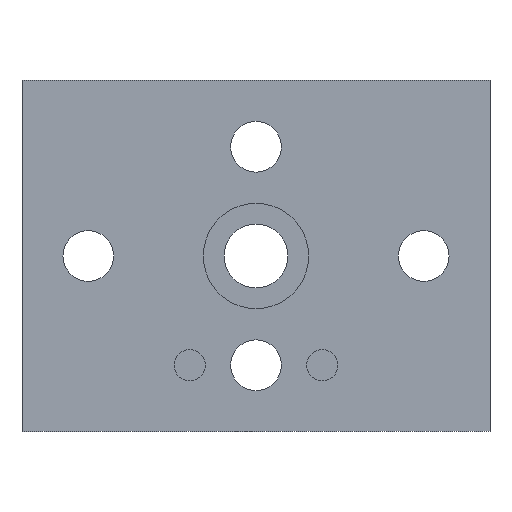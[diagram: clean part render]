
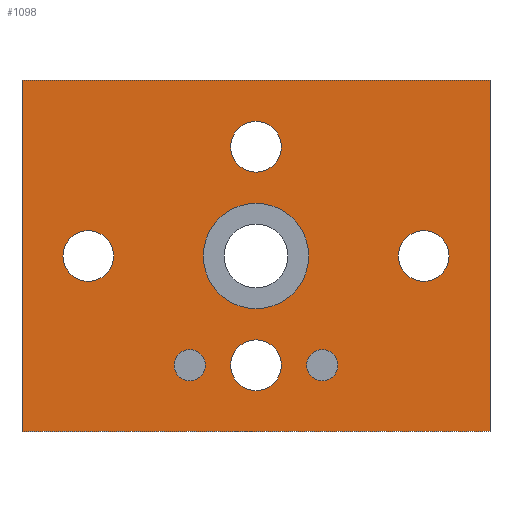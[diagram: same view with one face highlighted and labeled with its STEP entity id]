
A CAD part, front view. The second image highlights one B-rep face of the part: STEP entity #1098.
In plain terms, the highlighted planar face has unit normal (0, -1, 0).
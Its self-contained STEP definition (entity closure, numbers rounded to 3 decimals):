
#1=DIRECTION('',(0.,0.,1.));
#2=VECTOR('',#1,45.);
#3=CARTESIAN_POINT('',(-30.,0.,-22.5));
#4=LINE('',#3,#2);
#5=DIRECTION('',(1.,0.,0.));
#6=VECTOR('',#5,60.);
#7=CARTESIAN_POINT('',(-30.,0.,22.5));
#8=LINE('',#7,#6);
#9=DIRECTION('',(0.,0.,-1.));
#10=VECTOR('',#9,45.);
#11=CARTESIAN_POINT('',(30.,0.,22.5));
#12=LINE('',#11,#10);
#13=DIRECTION('',(-1.,0.,0.));
#14=VECTOR('',#13,60.);
#15=CARTESIAN_POINT('',(30.,0.,-22.5));
#16=LINE('',#15,#14);
#17=CARTESIAN_POINT('',(0.,0.,-14.));
#18=DIRECTION('',(0.,1.,0.));
#19=DIRECTION('',(1.,0.,0.));
#20=AXIS2_PLACEMENT_3D('',#17,#18,#19);
#22=CARTESIAN_POINT('',(0.,0.,-14.));
#23=DIRECTION('',(0.,1.,0.));
#24=DIRECTION('',(-1.,0.,0.));
#25=AXIS2_PLACEMENT_3D('',#22,#23,#24);
#27=CARTESIAN_POINT('',(21.5,0.,0.));
#28=DIRECTION('',(0.,1.,0.));
#29=DIRECTION('',(1.,0.,0.));
#30=AXIS2_PLACEMENT_3D('',#27,#28,#29);
#32=CARTESIAN_POINT('',(21.5,0.,0.));
#33=DIRECTION('',(0.,1.,0.));
#34=DIRECTION('',(-1.,0.,0.));
#35=AXIS2_PLACEMENT_3D('',#32,#33,#34);
#37=CARTESIAN_POINT('',(0.,0.,14.));
#38=DIRECTION('',(0.,1.,0.));
#39=DIRECTION('',(1.,0.,0.));
#40=AXIS2_PLACEMENT_3D('',#37,#38,#39);
#42=CARTESIAN_POINT('',(0.,0.,14.));
#43=DIRECTION('',(0.,1.,0.));
#44=DIRECTION('',(-1.,0.,0.));
#45=AXIS2_PLACEMENT_3D('',#42,#43,#44);
#47=CARTESIAN_POINT('',(-21.5,0.,0.));
#48=DIRECTION('',(0.,1.,0.));
#49=DIRECTION('',(1.,0.,0.));
#50=AXIS2_PLACEMENT_3D('',#47,#48,#49);
#52=CARTESIAN_POINT('',(-21.5,0.,0.));
#53=DIRECTION('',(0.,1.,0.));
#54=DIRECTION('',(-1.,0.,0.));
#55=AXIS2_PLACEMENT_3D('',#52,#53,#54);
#57=CARTESIAN_POINT('',(-8.5,0.,-14.));
#58=DIRECTION('',(0.,-1.,0.));
#59=DIRECTION('',(-1.,0.,0.));
#60=AXIS2_PLACEMENT_3D('',#57,#58,#59);
#62=CARTESIAN_POINT('',(-8.5,0.,-14.));
#63=DIRECTION('',(0.,-1.,0.));
#64=DIRECTION('',(1.,0.,0.));
#65=AXIS2_PLACEMENT_3D('',#62,#63,#64);
#67=CARTESIAN_POINT('',(8.5,0.,-14.));
#68=DIRECTION('',(0.,-1.,0.));
#69=DIRECTION('',(-1.,0.,0.));
#70=AXIS2_PLACEMENT_3D('',#67,#68,#69);
#72=CARTESIAN_POINT('',(8.5,0.,-14.));
#73=DIRECTION('',(0.,-1.,0.));
#74=DIRECTION('',(1.,0.,0.));
#75=AXIS2_PLACEMENT_3D('',#72,#73,#74);
#77=CARTESIAN_POINT('',(0.,0.,0.));
#78=DIRECTION('',(0.,-1.,0.));
#79=DIRECTION('',(-1.,0.,0.));
#80=AXIS2_PLACEMENT_3D('',#77,#78,#79);
#82=CARTESIAN_POINT('',(0.,0.,0.));
#83=DIRECTION('',(0.,-1.,0.));
#84=DIRECTION('',(1.,0.,0.));
#85=AXIS2_PLACEMENT_3D('',#82,#83,#84);
#801=CARTESIAN_POINT('',(-30.,0.,-22.5));
#802=CARTESIAN_POINT('',(-30.,0.,22.5));
#803=VERTEX_POINT('',#801);
#804=VERTEX_POINT('',#802);
#805=CARTESIAN_POINT('',(30.,0.,22.5));
#806=VERTEX_POINT('',#805);
#807=CARTESIAN_POINT('',(30.,0.,-22.5));
#808=VERTEX_POINT('',#807);
#817=CARTESIAN_POINT('',(3.25,0.,-14.));
#818=CARTESIAN_POINT('',(-3.25,0.,-14.));
#819=VERTEX_POINT('',#817);
#820=VERTEX_POINT('',#818);
#821=CARTESIAN_POINT('',(24.75,0.,0.));
#822=CARTESIAN_POINT('',(18.25,0.,0.));
#823=VERTEX_POINT('',#821);
#824=VERTEX_POINT('',#822);
#825=CARTESIAN_POINT('',(3.25,0.,14.));
#826=CARTESIAN_POINT('',(-3.25,0.,14.));
#827=VERTEX_POINT('',#825);
#828=VERTEX_POINT('',#826);
#829=CARTESIAN_POINT('',(-18.25,0.,0.));
#830=CARTESIAN_POINT('',(-24.75,0.,0.));
#831=VERTEX_POINT('',#829);
#832=VERTEX_POINT('',#830);
#893=CARTESIAN_POINT('',(-10.5,0.,-14.));
#894=CARTESIAN_POINT('',(-6.5,0.,-14.));
#895=VERTEX_POINT('',#893);
#896=VERTEX_POINT('',#894);
#897=CARTESIAN_POINT('',(6.5,0.,-14.));
#898=CARTESIAN_POINT('',(10.5,0.,-14.));
#899=VERTEX_POINT('',#897);
#900=VERTEX_POINT('',#898);
#905=CARTESIAN_POINT('',(-6.75,0.,0.));
#906=CARTESIAN_POINT('',(6.75,0.,0.));
#907=VERTEX_POINT('',#905);
#908=VERTEX_POINT('',#906);
#1041=CARTESIAN_POINT('',(0.,0.,0.));
#1042=DIRECTION('',(0.,1.,0.));
#1043=DIRECTION('',(1.,0.,0.));
#1044=AXIS2_PLACEMENT_3D('',#1041,#1042,#1043);
#1045=PLANE('',#1044);
#1047=ORIENTED_EDGE('',*,*,#1046,.T.);
#1049=ORIENTED_EDGE('',*,*,#1048,.T.);
#1051=ORIENTED_EDGE('',*,*,#1050,.T.);
#1053=ORIENTED_EDGE('',*,*,#1052,.T.);
#1054=EDGE_LOOP('',(#1047,#1049,#1051,#1053));
#1055=FACE_OUTER_BOUND('',#1054,.F.);
#1057=ORIENTED_EDGE('',*,*,#1056,.F.);
#1059=ORIENTED_EDGE('',*,*,#1058,.F.);
#1060=EDGE_LOOP('',(#1057,#1059));
#1061=FACE_BOUND('',#1060,.F.);
#1063=ORIENTED_EDGE('',*,*,#1062,.F.);
#1065=ORIENTED_EDGE('',*,*,#1064,.F.);
#1066=EDGE_LOOP('',(#1063,#1065));
#1067=FACE_BOUND('',#1066,.F.);
#1069=ORIENTED_EDGE('',*,*,#1068,.F.);
#1071=ORIENTED_EDGE('',*,*,#1070,.F.);
#1072=EDGE_LOOP('',(#1069,#1071));
#1073=FACE_BOUND('',#1072,.F.);
#1075=ORIENTED_EDGE('',*,*,#1074,.F.);
#1077=ORIENTED_EDGE('',*,*,#1076,.F.);
#1078=EDGE_LOOP('',(#1075,#1077));
#1079=FACE_BOUND('',#1078,.F.);
#1081=ORIENTED_EDGE('',*,*,#1080,.T.);
#1083=ORIENTED_EDGE('',*,*,#1082,.T.);
#1084=EDGE_LOOP('',(#1081,#1083));
#1085=FACE_BOUND('',#1084,.F.);
#1087=ORIENTED_EDGE('',*,*,#1086,.T.);
#1089=ORIENTED_EDGE('',*,*,#1088,.T.);
#1090=EDGE_LOOP('',(#1087,#1089));
#1091=FACE_BOUND('',#1090,.F.);
#1093=ORIENTED_EDGE('',*,*,#1092,.T.);
#1095=ORIENTED_EDGE('',*,*,#1094,.T.);
#1096=EDGE_LOOP('',(#1093,#1095));
#1097=FACE_BOUND('',#1096,.F.);
#1098=ADVANCED_FACE('',(#1055,#1061,#1067,#1073,#1079,#1085,#1091,#1097),#1045,
.F.);
#21=CIRCLE('',#20,3.25);
#26=CIRCLE('',#25,3.25);
#31=CIRCLE('',#30,3.25);
#36=CIRCLE('',#35,3.25);
#41=CIRCLE('',#40,3.25);
#46=CIRCLE('',#45,3.25);
#51=CIRCLE('',#50,3.25);
#56=CIRCLE('',#55,3.25);
#61=CIRCLE('',#60,2.);
#66=CIRCLE('',#65,2.);
#71=CIRCLE('',#70,2.);
#76=CIRCLE('',#75,2.);
#81=CIRCLE('',#80,6.75);
#86=CIRCLE('',#85,6.75);
#1046=EDGE_CURVE('',#803,#804,#4,.T.);
#1048=EDGE_CURVE('',#804,#806,#8,.T.);
#1050=EDGE_CURVE('',#806,#808,#12,.T.);
#1052=EDGE_CURVE('',#808,#803,#16,.T.);
#1056=EDGE_CURVE('',#819,#820,#21,.T.);
#1058=EDGE_CURVE('',#820,#819,#26,.T.);
#1062=EDGE_CURVE('',#823,#824,#31,.T.);
#1064=EDGE_CURVE('',#824,#823,#36,.T.);
#1068=EDGE_CURVE('',#827,#828,#41,.T.);
#1070=EDGE_CURVE('',#828,#827,#46,.T.);
#1074=EDGE_CURVE('',#831,#832,#51,.T.);
#1076=EDGE_CURVE('',#832,#831,#56,.T.);
#1080=EDGE_CURVE('',#895,#896,#61,.T.);
#1082=EDGE_CURVE('',#896,#895,#66,.T.);
#1086=EDGE_CURVE('',#899,#900,#71,.T.);
#1088=EDGE_CURVE('',#900,#899,#76,.T.);
#1092=EDGE_CURVE('',#907,#908,#81,.T.);
#1094=EDGE_CURVE('',#908,#907,#86,.T.);
